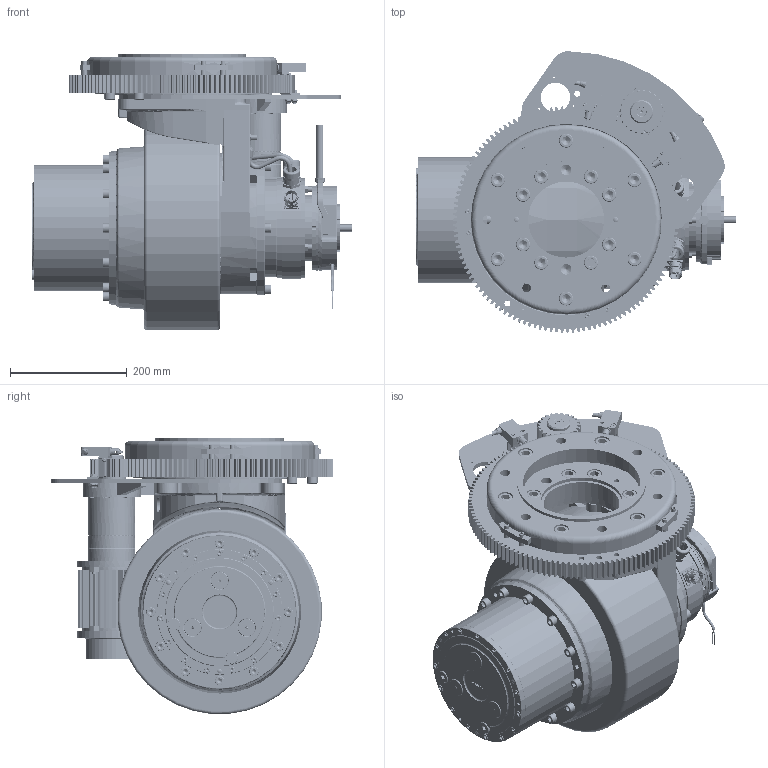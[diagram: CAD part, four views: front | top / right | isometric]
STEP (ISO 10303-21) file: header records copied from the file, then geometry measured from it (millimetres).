
FILE_DESCRIPTION(/* description */ (''),/* implementation_level */ '2;1');
FILE_NAME(/* name */ 'Z:\SITO WEB 2023\Motoruote\Orizzontali sterzanti\MR350FMS\MR350FMS PMAC + PMAC\MR350FMS-BL.stp',/* time_stamp */ '2023-08-01T14:10:32+02:00',/* author */ ('cad3'),/* organization */ (''),/* preprocessor_version */ 'ST-DEVELOPER v18.1',/* originating_system */ 'Autodesk Inventor 2022',/* authorisation */ '');
FILE_SCHEMA (('AUTOMOTIVE_DESIGN { 1 0 10303 214 3 1 1 }'));
Length unit declared in the file: millimetre
Products named in the file (1): MR350FMS-BL
Bounding box: 547.83 x 481.47 x 471.87 mm (x, y, z)
Volume: 22199701.5 mm3; surface area: 3290494.3 mm2
Topology: 16 solids, 191 shells, 13891 faces, 35310 edges, 23003 vertices
Faces by surface type: plane 9061, cylinder 2818, cone 767, torus 619, bspline 585, sphere 41
Full cylindrical faces by diameter (mm): 0.9 x24, 1.88 x2, 2 x8, 2.459 x3, 2.5 x6, 2.75 x4, 2.9 x8, 3 x14, 3.2 x8, 3.242 x15, 4 x15, 4.134 x20, 4.2 x2, 4.25 x2, 4.5 x22, 4.8 x8, 4.917 x28, 5 x20, 5.35 x11, 5.5 x14, 5.9 x4, 6 x63, 6.2 x2, 6.4 x16, 6.5 x35, 6.6 x25, 6.647 x3, 6.8 x5, 7 x11, 7.5 x7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
Entity records: 514690 total; most frequent: CARTESIAN_POINT 162656, DIRECTION 70614, ORIENTED_EDGE 70149, EDGE_CURVE 35096, AXIS2_PLACEMENT_3D 25394, VERTEX_POINT 22998, LINE 19826, VECTOR 19826
